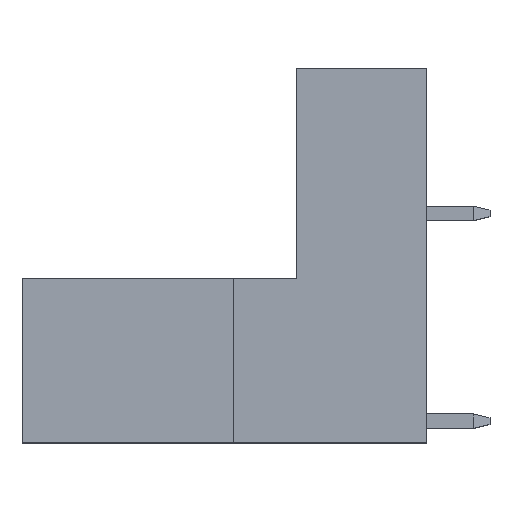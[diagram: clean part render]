
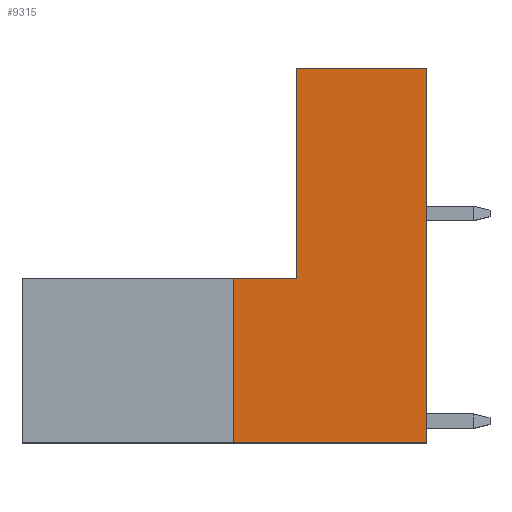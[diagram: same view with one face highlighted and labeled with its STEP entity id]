
A CAD part, top view. The second image highlights one B-rep face of the part: STEP entity #9315.
In plain terms, the highlighted planar face has unit normal (0, 0, 1).
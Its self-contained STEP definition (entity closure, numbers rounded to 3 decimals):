
#333=DIRECTION('',(-1.,0.,0.));
#334=VECTOR('',#333,7.2);
#335=CARTESIAN_POINT('',(22.4,20.702,-1.3));
#336=LINE('',#335,#334);
#757=DIRECTION('',(1.,0.,0.));
#758=VECTOR('',#757,10.7);
#759=CARTESIAN_POINT('',(11.7,0.002,-1.3));
#760=LINE('',#759,#758);
#1386=DIRECTION('',(-1.,0.,0.));
#1387=VECTOR('',#1386,3.5);
#1388=CARTESIAN_POINT('',(15.2,9.102,-1.3));
#1389=LINE('',#1388,#1387);
#1553=DIRECTION('',(0.,-1.,0.));
#1554=VECTOR('',#1553,20.7);
#1555=CARTESIAN_POINT('',(22.4,20.702,-1.3));
#1556=LINE('',#1555,#1554);
#1557=DIRECTION('',(0.,1.,0.));
#1558=VECTOR('',#1557,9.1);
#1559=CARTESIAN_POINT('',(11.7,0.002,-1.3));
#1560=LINE('',#1559,#1558);
#1561=DIRECTION('',(0.,1.,0.));
#1562=VECTOR('',#1561,11.6);
#1563=CARTESIAN_POINT('',(15.2,9.102,-1.3));
#1564=LINE('',#1563,#1562);
#5580=CARTESIAN_POINT('',(11.7,0.002,-1.3));
#5581=VERTEX_POINT('',#5580);
#5582=CARTESIAN_POINT('',(22.4,0.002,-1.3));
#5583=VERTEX_POINT('',#5582);
#5732=CARTESIAN_POINT('',(22.4,20.702,-1.3));
#5734=VERTEX_POINT('',#5732);
#5801=CARTESIAN_POINT('',(15.2,20.702,-1.3));
#5803=VERTEX_POINT('',#5801);
#5900=CARTESIAN_POINT('',(15.2,9.102,-1.3));
#5901=VERTEX_POINT('',#5900);
#6012=CARTESIAN_POINT('',(11.7,9.102,-1.3));
#6013=VERTEX_POINT('',#6012);
#9301=CARTESIAN_POINT('',(28.154,22.002,-1.3));
#9302=DIRECTION('',(0.,0.,-1.));
#9303=DIRECTION('',(-1.,0.,0.));
#9304=AXIS2_PLACEMENT_3D('',#9301,#9302,#9303);
#9305=PLANE('',#9304);
#9306=ORIENTED_EDGE('',*,*,#7667,.F.);
#9308=ORIENTED_EDGE('',*,*,#9307,.T.);
#9309=ORIENTED_EDGE('',*,*,#8299,.F.);
#9310=ORIENTED_EDGE('',*,*,#9296,.T.);
#9311=ORIENTED_EDGE('',*,*,#9119,.F.);
#9312=ORIENTED_EDGE('',*,*,#7778,.T.);
#9313=EDGE_LOOP('',(#9306,#9308,#9309,#9310,#9311,#9312));
#9314=FACE_OUTER_BOUND('',#9313,.F.);
#9315=ADVANCED_FACE('',(#9314),#9305,.F.);
#7667=EDGE_CURVE('',#5734,#5803,#336,.T.);
#7778=EDGE_CURVE('',#5901,#5803,#1564,.T.);
#8299=EDGE_CURVE('',#5581,#5583,#760,.T.);
#9119=EDGE_CURVE('',#5901,#6013,#1389,.T.);
#9296=EDGE_CURVE('',#5581,#6013,#1560,.T.);
#9307=EDGE_CURVE('',#5734,#5583,#1556,.T.);
